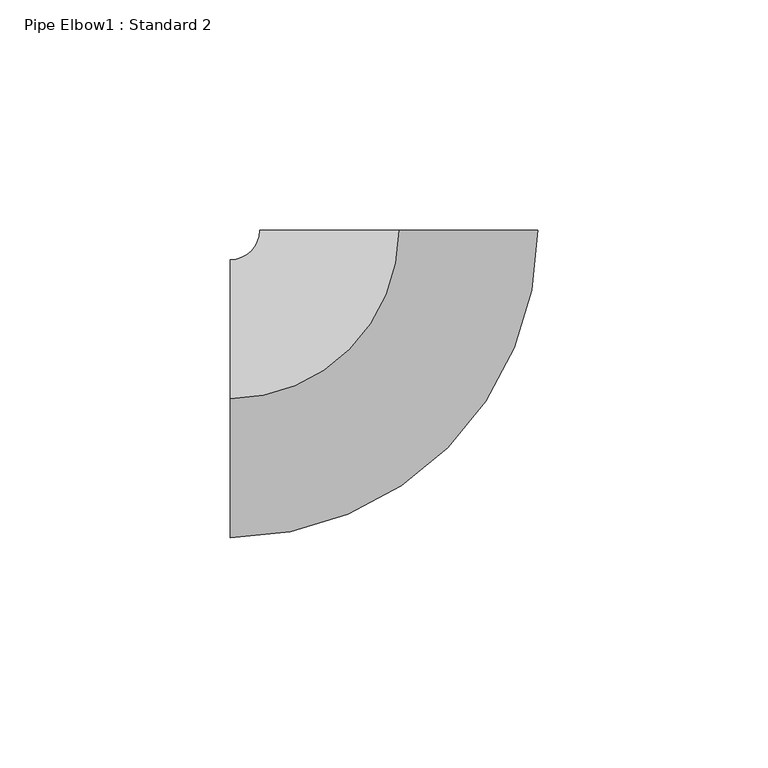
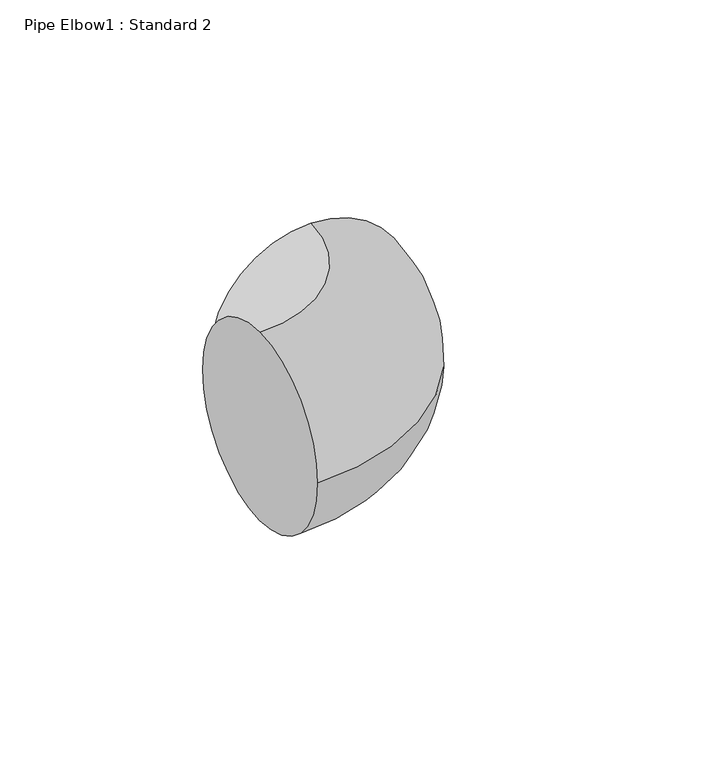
"""IFC4 building model written with IfcOpenShell, lengths in millimetres: pipe fitting geometry, Pipe Elbow1 : Standard 2."""

from ifc_helpers import new_model, si_unit, point, frame, origin, place, context, project, spatial, circle_curve, ellipse_curve, trimmed, source, transform, mapped, element, save
from ifc_brep_helpers import plane_surface, revolved_surface, advanced_brep


def pipe_elbow1_standard_2_91f5270b(model_context):
    return source(origin(), model_context, "Body", "AdvancedBrep", [
        advanced_brep(
        [(-36.5085323, 0.0, 30.1625), (-36.5085323, 30.1625, 0.0), (-36.5085323, 0.0, -30.1625), (-36.5085323, -30.1625, 0.0), (0.0039675, 36.5085321, 30.1625), (30.1664673, 36.5052543, 0.0), (0.0039675, 36.5085321, -30.1625), (-30.1585324, 36.5118099, 0.0)],
        [
            (0, 1, circle_curve(frame((-36.5085323, 0.0, 0.0), z_axis=(-1.0, 0.0, 0.0), x_axis=(0.0, 1.0, 0.0)), 30.1625)),
            (1, 2, circle_curve(frame((-36.5085323, 0.0, 0.0), z_axis=(-1.0, 0.0, 0.0), x_axis=(0.0, 1.0, 0.0)), 30.1625)),
            (2, 3, circle_curve(frame((-36.5085323, 0.0, 0.0), z_axis=(-1.0, 0.0, 0.0), x_axis=(0.0, 1.0, 0.0)), 30.1625)),
            (3, 0, circle_curve(frame((-36.5085323, 0.0, 0.0), z_axis=(-1.0, 0.0, 0.0), x_axis=(0.0, 1.0, 0.0)), 30.1625)),
            (4, 5, circle_curve(frame((0.0039675, 36.5085321, 0.0), z_axis=(0.00010867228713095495, 0.9999999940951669, 0.0), x_axis=(-0.9999999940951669, 0.00010867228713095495, 0.0)), 30.1625)),
            (5, 6, circle_curve(frame((0.0039675, 36.5085321, 0.0), z_axis=(0.00010867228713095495, 0.9999999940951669, 0.0), x_axis=(-0.9999999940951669, 0.00010867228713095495, 0.0)), 30.1625)),
            (6, 7, circle_curve(frame((0.0039675, 36.5085321, 0.0), z_axis=(0.00010867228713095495, 0.9999999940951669, 0.0), x_axis=(-0.9999999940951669, 0.00010867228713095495, 0.0)), 30.1625)),
            (7, 4, circle_curve(frame((0.0039675, 36.5085321, 0.0), z_axis=(0.00010867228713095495, 0.9999999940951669, 0.0), x_axis=(-0.9999999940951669, 0.00010867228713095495, 0.0)), 30.1625)),
            (7, 1, circle_curve(frame((-36.5085323, 36.5125, 0.0), z_axis=(0.0, 0.0, -1.0), x_axis=(0.0, -1.0, 0.0)), 6.35)),
            (0, 4, circle_curve(frame((-36.5085323, 36.5125, 30.1625), z_axis=(0.0, 0.0, 1.0), x_axis=(0.0, -1.0, 0.0)), 36.5125)),
            (6, 2, circle_curve(frame((-36.5085323, 36.5125, -30.1625), z_axis=(0.0, 0.0, -1.0), x_axis=(0.0, -1.0, 0.0)), 36.5125)),
            (5, 3, circle_curve(frame((-36.5085323, 36.5125, 0.0), z_axis=(0.0, 0.0, -1.0), x_axis=(0.0, -1.0, 0.0)), 66.675)),
        ],
        [
            plane_surface(frame((-36.5085323, 0.0, 0.0), z_axis=(-1.0, 0.0, 0.0), x_axis=(0.0, 0.0, 1.0))),
            plane_surface(frame((0.0039675, 36.5085321, 0.0), z_axis=(0.00010867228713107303, 0.999999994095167, 0.0), x_axis=(0.0, 0.0, 1.0))),
            revolved_surface(trimmed(ellipse_curve(frame((-36.5085323, 0.0, 0.0), z_axis=(-1.0, 0.0, 0.0), x_axis=(0.0, 1.0, 0.0)), 30.1625, 30.1625), [point((-36.5085323, 0.0, 30.1625))], [point((-36.5085323, 30.1625, 0.0))], True, "CARTESIAN"), (-36.5085323, 36.5125, 0.0), (0.0, 0.0, 1.0)),
            revolved_surface(trimmed(ellipse_curve(frame((-36.5085323, 0.0, 0.0), z_axis=(-1.0, 0.0, 0.0), x_axis=(0.0, 1.0, 0.0)), 30.1625, 30.1625), [point((-36.5085323, 30.1625, 0.0))], [point((-36.5085323, 0.0, -30.1625))], True, "CARTESIAN"), (-36.5085323, 36.5125, 0.0), (0.0, 0.0, 1.0)),
            revolved_surface(trimmed(ellipse_curve(frame((-36.5085323, 0.0, 0.0), z_axis=(-1.0, 0.0, 0.0), x_axis=(0.0, 1.0, 0.0)), 30.1625, 30.1625), [point((-36.5085323, 0.0, -30.1625))], [point((-36.5085323, -30.1625, 0.0))], True, "CARTESIAN"), (-36.5085323, 36.5125, 0.0), (0.0, 0.0, 1.0)),
            revolved_surface(trimmed(ellipse_curve(frame((-36.5085323, 0.0, 0.0), z_axis=(-1.0, 0.0, 0.0), x_axis=(0.0, 1.0, 0.0)), 30.1625, 30.1625), [point((-36.5085323, -30.1625, 0.0))], [point((-36.5085323, 0.0, 30.1625))], True, "CARTESIAN"), (-36.5085323, 36.5125, 0.0), (0.0, 0.0, 1.0)),
        ],
        [
            (0, [[1, 2, 3, 4]]),
            (1, [[5, 6, 7, 8]]),
            (2, [[9, -1, 10, -8]]),
            (3, [[11, -2, -9, -7]]),
            (4, [[12, -3, -11, -6]]),
            (5, [[-10, -4, -12, -5]]),
        ],
    ),
        advanced_brep(
        [(-36.5085323, 0.0, 30.1625), (-36.5085323, 30.1625, 0.0), (-36.5085323, 0.0, -30.1625), (-36.5085323, -30.1625, 0.0), (0.0039675, 36.5085321, 30.1625), (30.1664673, 36.5052543, 0.0), (0.0039675, 36.5085321, -30.1625), (-30.1585324, 36.5118099, 0.0)],
        [
            (0, 1, circle_curve(frame((-36.5085323, 0.0, 0.0), z_axis=(-1.0, 0.0, 0.0), x_axis=(0.0, 1.0, 0.0)), 30.1625)),
            (1, 2, circle_curve(frame((-36.5085323, 0.0, 0.0), z_axis=(-1.0, 0.0, 0.0), x_axis=(0.0, 1.0, 0.0)), 30.1625)),
            (2, 3, circle_curve(frame((-36.5085323, 0.0, 0.0), z_axis=(-1.0, 0.0, 0.0), x_axis=(0.0, 1.0, 0.0)), 30.1625)),
            (3, 0, circle_curve(frame((-36.5085323, 0.0, 0.0), z_axis=(-1.0, 0.0, 0.0), x_axis=(0.0, 1.0, 0.0)), 30.1625)),
            (4, 5, circle_curve(frame((0.0039675, 36.5085321, 0.0), z_axis=(0.00010867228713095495, 0.9999999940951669, 0.0), x_axis=(-0.9999999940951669, 0.00010867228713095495, 0.0)), 30.1625)),
            (5, 6, circle_curve(frame((0.0039675, 36.5085321, 0.0), z_axis=(0.00010867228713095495, 0.9999999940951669, 0.0), x_axis=(-0.9999999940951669, 0.00010867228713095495, 0.0)), 30.1625)),
            (6, 7, circle_curve(frame((0.0039675, 36.5085321, 0.0), z_axis=(0.00010867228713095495, 0.9999999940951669, 0.0), x_axis=(-0.9999999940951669, 0.00010867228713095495, 0.0)), 30.1625)),
            (7, 4, circle_curve(frame((0.0039675, 36.5085321, 0.0), z_axis=(0.00010867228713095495, 0.9999999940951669, 0.0), x_axis=(-0.9999999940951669, 0.00010867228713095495, 0.0)), 30.1625)),
            (7, 1, circle_curve(frame((-36.5085323, 36.5125, 0.0), z_axis=(0.0, 0.0, -1.0), x_axis=(0.0, -1.0, 0.0)), 6.35)),
            (0, 4, circle_curve(frame((-36.5085323, 36.5125, 30.1625), z_axis=(0.0, 0.0, 1.0), x_axis=(0.0, -1.0, 0.0)), 36.5125)),
            (6, 2, circle_curve(frame((-36.5085323, 36.5125, -30.1625), z_axis=(0.0, 0.0, -1.0), x_axis=(0.0, -1.0, 0.0)), 36.5125)),
            (5, 3, circle_curve(frame((-36.5085323, 36.5125, 0.0), z_axis=(0.0, 0.0, -1.0), x_axis=(0.0, -1.0, 0.0)), 66.675)),
        ],
        [
            plane_surface(frame((-36.5085323, 0.0, 0.0), z_axis=(-1.0, 0.0, 0.0), x_axis=(0.0, 0.0, 1.0))),
            plane_surface(frame((0.0039675, 36.5085321, 0.0), z_axis=(0.00010867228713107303, 0.999999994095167, 0.0), x_axis=(0.0, 0.0, 1.0))),
            revolved_surface(trimmed(ellipse_curve(frame((-36.5085323, 0.0, 0.0), z_axis=(-1.0, 0.0, 0.0), x_axis=(0.0, 1.0, 0.0)), 30.1625, 30.1625), [point((-36.5085323, 0.0, 30.1625))], [point((-36.5085323, 30.1625, 0.0))], True, "CARTESIAN"), (-36.5085323, 36.5125, 0.0), (0.0, 0.0, 1.0)),
            revolved_surface(trimmed(ellipse_curve(frame((-36.5085323, 0.0, 0.0), z_axis=(-1.0, 0.0, 0.0), x_axis=(0.0, 1.0, 0.0)), 30.1625, 30.1625), [point((-36.5085323, 30.1625, 0.0))], [point((-36.5085323, 0.0, -30.1625))], True, "CARTESIAN"), (-36.5085323, 36.5125, 0.0), (0.0, 0.0, 1.0)),
            revolved_surface(trimmed(ellipse_curve(frame((-36.5085323, 0.0, 0.0), z_axis=(-1.0, 0.0, 0.0), x_axis=(0.0, 1.0, 0.0)), 30.1625, 30.1625), [point((-36.5085323, 0.0, -30.1625))], [point((-36.5085323, -30.1625, 0.0))], True, "CARTESIAN"), (-36.5085323, 36.5125, 0.0), (0.0, 0.0, 1.0)),
            revolved_surface(trimmed(ellipse_curve(frame((-36.5085323, 0.0, 0.0), z_axis=(-1.0, 0.0, 0.0), x_axis=(0.0, 1.0, 0.0)), 30.1625, 30.1625), [point((-36.5085323, -30.1625, 0.0))], [point((-36.5085323, 0.0, 30.1625))], True, "CARTESIAN"), (-36.5085323, 36.5125, 0.0), (0.0, 0.0, 1.0)),
        ],
        [
            (0, [[1, 2, 3, 4]]),
            (1, [[5, 6, 7, 8]]),
            (2, [[9, -1, 10, -8]]),
            (3, [[11, -2, -9, -7]]),
            (4, [[12, -3, -11, -6]]),
            (5, [[-10, -4, -12, -5]]),
        ],
    ),
    ])


if __name__ == "__main__":
    model = new_model("IFC4")
    model_context = context("Model", 3, world=origin())
    ifc_project = project(units=[si_unit("LENGTHUNIT", "METRE", prefix="MILLI")], contexts=[model_context])
    site = spatial("IfcSite", under=ifc_project)
    building = spatial("IfcBuilding", under=site)
    placement = place(None, origin())
    pipe_elbow1_standard_2_shape = pipe_elbow1_standard_2_91f5270b(model_context)
    element("IfcPipeFitting", 1, ObjectType="Pipe Elbow1 : Standard 2", at=placement, inside=building, context=model_context, shape_type="MappedRepresentation", body=[
        mapped(pipe_elbow1_standard_2_shape, transform((0.0, 0.0, 0.0), x_axis=(1.0, 0.0, 0.0), y_axis=(0.0, 1.0, 0.0), z_axis=(0.0, 0.0, 1.0))),
    ])
    save(model, "model.ifc")
